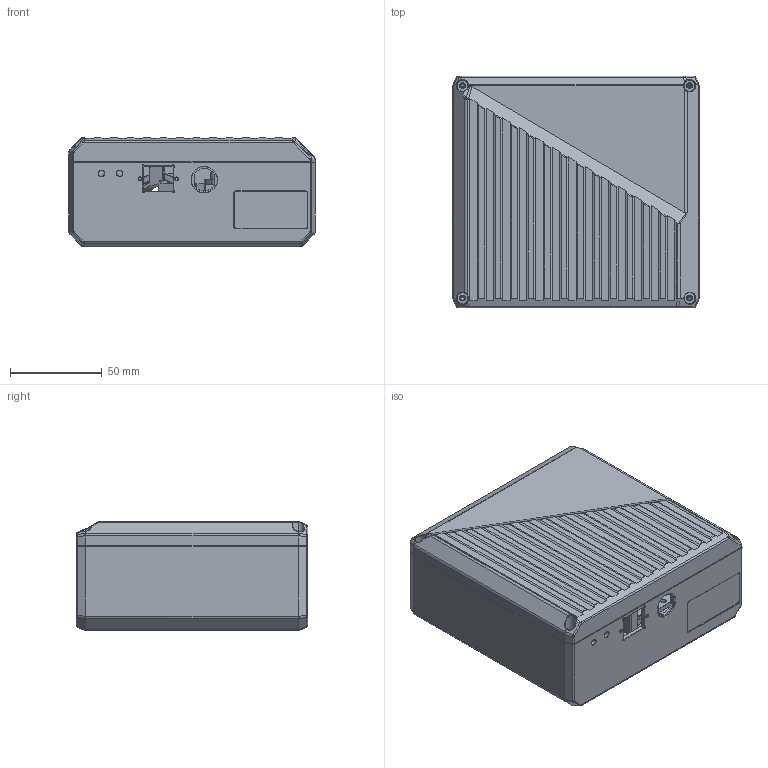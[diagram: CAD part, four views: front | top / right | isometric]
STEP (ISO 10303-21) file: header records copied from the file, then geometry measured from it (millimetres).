
FILE_DESCRIPTION((''),'2;1');
FILE_NAME('DFX1203JIJIA_ASM','2024-08-27T',('Ҧ'),(''),'PRO/ENGINEER BY PARAMETRIC TECHNOLOGY CORPORATION, 2010280','PRO/ENGINEER BY PARAMETRIC TECHNOLOGY CORPORATION, 2010280','');
FILE_SCHEMA(('CONFIG_CONTROL_DESIGN'));
Length unit declared in the file: millimetre
Products named in the file (8): 1202; 1202BEIBAN; 808HUAN; 808-KA; 803-43; 1202-6063; 1202A; DFX1203JIJIA_ASM
Assembly tree (7 placements, depth 2):
  DFX1203JIJIA_ASM
    1202
    1202BEIBAN
    808HUAN
    808-KA
    803-43
    1202-6063
    1202A
Bounding box: 134.5 x 126.5 x 59.5 mm (x, y, z)
Volume: 185054 mm3; surface area: 146425.3 mm2
Topology: 7 solids, 7 shells, 1348 faces, 3328 edges, 2050 vertices
Faces by surface type: plane 590, cylinder 433, cone 229, bspline 96
Entity records: 43126 total; most frequent: CARTESIAN_POINT 11482, ORIENTED_EDGE 6632, DIRECTION 6441, EDGE_CURVE 3316, AXIS2_PLACEMENT_3D 2262, VERTEX_POINT 2046, VECTOR 1917, LINE 1917
